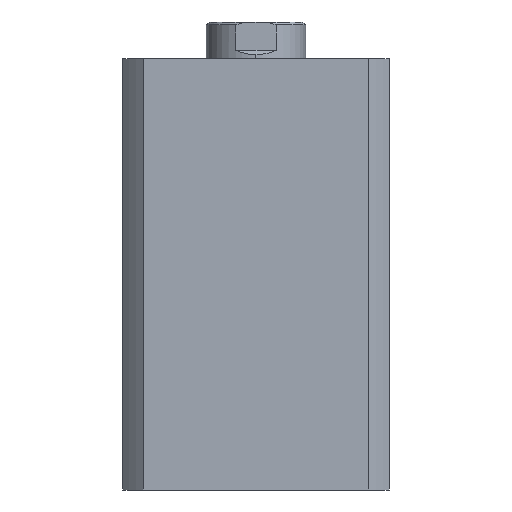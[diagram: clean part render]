
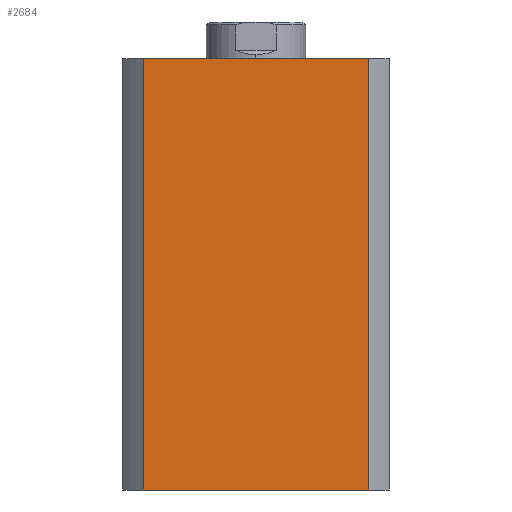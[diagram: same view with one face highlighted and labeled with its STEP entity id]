
A CAD part, left-side view. The second image highlights one B-rep face of the part: STEP entity #2684.
In plain terms, the highlighted planar face has unit normal (-1, 0, 0).
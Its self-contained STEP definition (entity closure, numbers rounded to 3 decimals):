
#6 = DIRECTION ( 'NONE',  ( 0., 0., -1. ) ) ;
#26 = CARTESIAN_POINT ( 'NONE',  ( -47., 39.664, 152. ) ) ;
#28 = CARTESIAN_POINT ( 'NONE',  ( -47., 0., 0. ) ) ;
#33 = DIRECTION ( 'NONE',  ( 0., -1., 0. ) ) ;
#34 = CARTESIAN_POINT ( 'NONE',  ( -47., -39.664, 152. ) ) ;
#36 = DIRECTION ( 'NONE',  ( 0., 0., -1. ) ) ;
#491 = VERTEX_POINT ( 'NONE', #4102 ) ;
#521 = EDGE_LOOP ( 'NONE', ( #2993, #2992, #2991, #2990 ) ) ;
#680 = FACE_OUTER_BOUND ( 'NONE', #521, .T. ) ;
#794 = DIRECTION ( 'NONE',  ( 0., -1., 0. ) ) ;
#798 = CARTESIAN_POINT ( 'NONE',  ( -47., 0., 152. ) ) ;
#2472 = VERTEX_POINT ( 'NONE', #3241 ) ;
#2473 = VERTEX_POINT ( 'NONE', #3240 ) ;
#2643 = VERTEX_POINT ( 'NONE', #3286 ) ;
#2684 = ADVANCED_FACE ( 'NONE', ( #680 ), #4122, .F. ) ;
#2990 = ORIENTED_EDGE ( 'NONE', *, *, #3783, .T. ) ;
#2991 = ORIENTED_EDGE ( 'NONE', *, *, #3731, .F. ) ;
#2992 = ORIENTED_EDGE ( 'NONE', *, *, #3785, .F. ) ;
#2993 = ORIENTED_EDGE ( 'NONE', *, *, #3784, .T. ) ;
#3240 = CARTESIAN_POINT ( 'NONE',  ( -47., -39.664, 0. ) ) ;
#3241 = CARTESIAN_POINT ( 'NONE',  ( -47., 39.664, 0. ) ) ;
#3286 = CARTESIAN_POINT ( 'NONE',  ( -47., 39.664, 152. ) ) ;
#3464 = LINE ( 'NONE', #798, #3466 ) ;
#3466 = VECTOR ( 'NONE', #794, 1000. ) ;
#3529 = LINE ( 'NONE', #28, #3567 ) ;
#3558 = LINE ( 'NONE', #26, #3562 ) ;
#3562 = VECTOR ( 'NONE', #6, 1000. ) ;
#3564 = LINE ( 'NONE', #34, #3571 ) ;
#3567 = VECTOR ( 'NONE', #33, 1000. ) ;
#3571 = VECTOR ( 'NONE', #36, 1000. ) ;
#3731 = EDGE_CURVE ( 'NONE', #2643, #491, #3464, .T. ) ;
#3783 = EDGE_CURVE ( 'NONE', #2643, #2472, #3558, .T. ) ;
#3784 = EDGE_CURVE ( 'NONE', #2472, #2473, #3529, .T. ) ;
#3785 = EDGE_CURVE ( 'NONE', #491, #2473, #3564, .T. ) ;
#4102 = CARTESIAN_POINT ( 'NONE',  ( -47., -39.664, 152. ) ) ;
#4116 = CARTESIAN_POINT ( 'NONE',  ( -47., 0., 152. ) ) ;
#4122 = PLANE ( 'NONE',  #4539 ) ;
#4125 = DIRECTION ( 'NONE',  ( 1., 0., 0. ) ) ;
#4126 = DIRECTION ( 'NONE',  ( 0., 0., -1. ) ) ;
#4539 = AXIS2_PLACEMENT_3D ( 'NONE', #4116, #4125, #4126 ) ;
